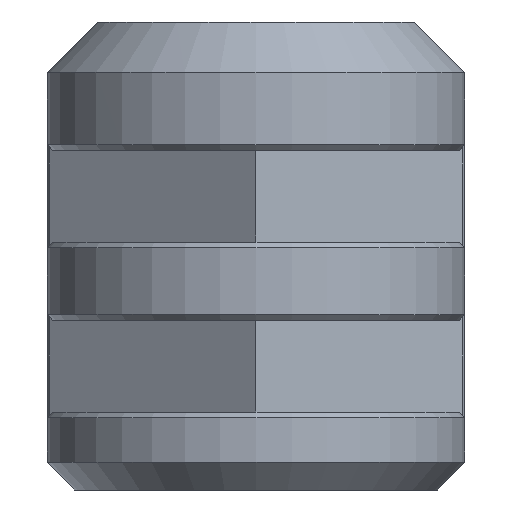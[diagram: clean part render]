
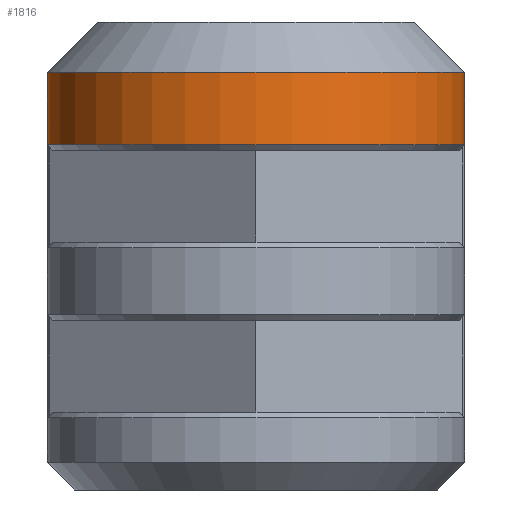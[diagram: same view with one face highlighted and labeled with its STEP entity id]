
A CAD part, left-side view. The second image highlights one B-rep face of the part: STEP entity #1816.
In plain terms, the highlighted cylindrical face has radius 7.5 mm (diameter 15 mm), a partial arc.
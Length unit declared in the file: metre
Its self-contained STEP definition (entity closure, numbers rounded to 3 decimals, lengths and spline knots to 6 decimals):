
#30=ELLIPSE('',#1950,0.010607,0.0075);
#31=ELLIPSE('',#1952,0.010607,0.0075);
#47=CIRCLE('',#1949,0.0075);
#48=CIRCLE('',#1951,0.0075);
#67=CYLINDRICAL_SURFACE('',#1948,0.0075);
#166=ORIENTED_EDGE('',*,*,#597,.T.);
#167=ORIENTED_EDGE('',*,*,#680,.T.);
#168=ORIENTED_EDGE('',*,*,#629,.F.);
#169=ORIENTED_EDGE('',*,*,#681,.T.);
#170=ORIENTED_EDGE('',*,*,#682,.T.);
#171=ORIENTED_EDGE('',*,*,#683,.T.);
#597=EDGE_CURVE('',#858,#857,#1022,.T.);
#629=EDGE_CURVE('',#889,#890,#1054,.T.);
#680=EDGE_CURVE('',#857,#890,#47,.F.);
#681=EDGE_CURVE('',#889,#922,#30,.F.);
#682=EDGE_CURVE('',#922,#921,#48,.F.);
#683=EDGE_CURVE('',#921,#858,#31,.F.);
#857=VERTEX_POINT('',#2573);
#858=VERTEX_POINT('',#2575);
#889=VERTEX_POINT('',#2638);
#890=VERTEX_POINT('',#2640);
#921=VERTEX_POINT('',#2714);
#922=VERTEX_POINT('',#2716);
#1022=LINE('',#2574,#1249);
#1054=LINE('',#2639,#1281);
#1249=VECTOR('',#2068,1.);
#1281=VECTOR('',#2102,1.);
#1490=EDGE_LOOP('',(#166,#167,#168,#169,#170,#171));
#1615=FACE_BOUND('',#1490,.T.);
#1816=ADVANCED_FACE('',(#1615),#67,.T.);
#1948=AXIS2_PLACEMENT_3D('',#2742,#2184,#2185);
#1949=AXIS2_PLACEMENT_3D('',#2743,#2186,#2187);
#1950=AXIS2_PLACEMENT_3D('',#2744,#2188,#2189);
#1951=AXIS2_PLACEMENT_3D('',#2745,#2190,#2191);
#1952=AXIS2_PLACEMENT_3D('',#2746,#2192,#2193);
#2068=DIRECTION('',(0.,0.,-1.));
#2102=DIRECTION('',(0.,0.,-1.));
#2184=DIRECTION('',(0.,0.,-1.));
#2185=DIRECTION('',(-1.,0.,0.));
#2186=DIRECTION('',(0.,0.,-1.));
#2187=DIRECTION('',(-1.,0.,0.));
#2188=DIRECTION('',(0.,0.707,-0.707));
#2189=DIRECTION('',(0.,-0.707,-0.707));
#2190=DIRECTION('',(0.,0.,1.));
#2191=DIRECTION('',(1.,0.,0.));
#2192=DIRECTION('',(0.,-0.707,-0.707));
#2193=DIRECTION('',(0.,0.707,-0.707));
#2573=CARTESIAN_POINT('',(-0.045,0.0075,0.0124));
#2574=CARTESIAN_POINT('',(-0.045,0.0075,0.015));
#2575=CARTESIAN_POINT('',(-0.045,0.0075,0.014));
#2638=CARTESIAN_POINT('',(-0.045,-0.0075,0.014));
#2639=CARTESIAN_POINT('',(-0.045,-0.0075,0.015));
#2640=CARTESIAN_POINT('',(-0.045,-0.0075,0.0124));
#2714=CARTESIAN_POINT('',(-0.041258,0.0065,0.015));
#2716=CARTESIAN_POINT('',(-0.041258,-0.0065,0.015));
#2742=CARTESIAN_POINT('',(-0.045,0.,0.015));
#2743=CARTESIAN_POINT('',(-0.045,0.,0.0124));
#2744=CARTESIAN_POINT('',(-0.045,0.,0.0215));
#2745=CARTESIAN_POINT('',(-0.045,0.,0.015));
#2746=CARTESIAN_POINT('',(-0.045,0.,0.0215));
